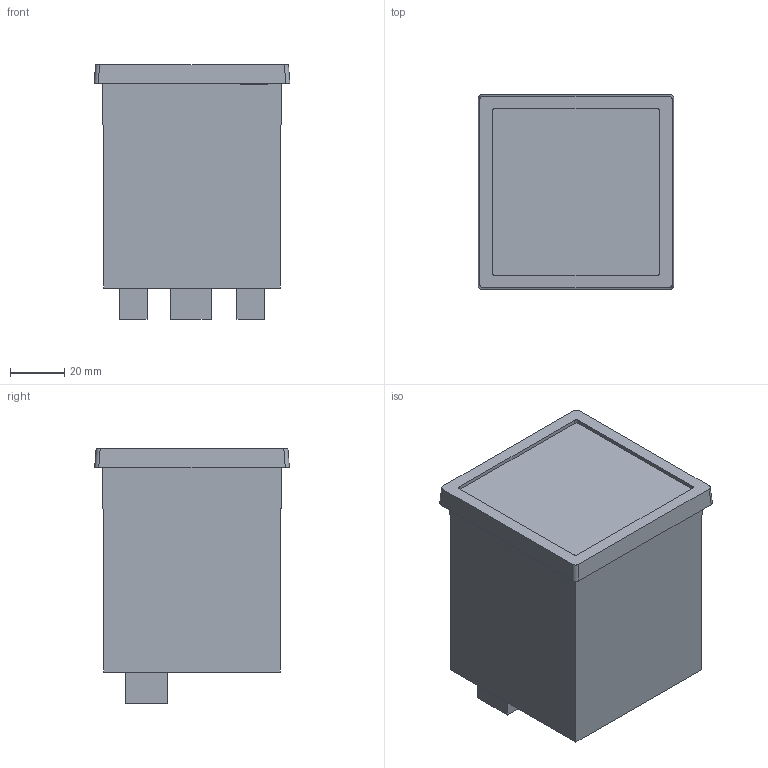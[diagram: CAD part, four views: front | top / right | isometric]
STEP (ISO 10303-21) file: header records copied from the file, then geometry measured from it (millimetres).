
FILE_DESCRIPTION (( 'STEP AP203' ), '1' );
FILE_NAME ('M0003 EPM-4A 72x72 CT-25.STEP', '2023-01-02T13:27:33', ( '' ), ( '' ), 'SwSTEP 2.0', 'SolidWorks 2021', '' );
FILE_SCHEMA (( 'CONFIG_CONTROL_DESIGN' ));
Length unit declared in the file: millimetre
Products named in the file (1): M0003 EPM-4A 72x72 CT-25
Bounding box: 72.1 x 71.7 x 93.7 mm (x, y, z)
Volume: 358198.8 mm3; surface area: 34000.5 mm2
Topology: 1 solids, 1 shells, 47 faces, 126 edges, 86 vertices
Faces by surface type: plane 39, cylinder 8
Entity records: 1535 total; most frequent: CARTESIAN_POINT 290, ORIENTED_EDGE 252, DIRECTION 220, EDGE_CURVE 126, VECTOR 108, LINE 108, VERTEX_POINT 86, AXIS2_PLACEMENT_3D 56
